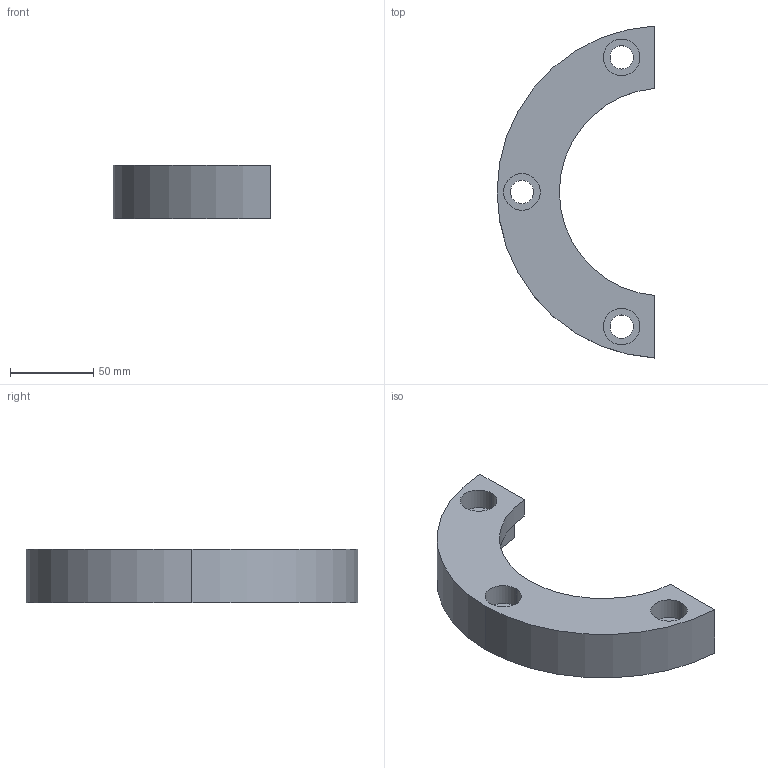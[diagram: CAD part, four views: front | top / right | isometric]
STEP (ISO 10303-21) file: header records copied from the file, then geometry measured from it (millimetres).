
FILE_DESCRIPTION (( 'STEP AP214' ), '1' );
FILE_NAME ('BR101-08-125.STEP', '2020-10-13T11:09:21', ( 'August' ), ( '' ), 'SwSTEP 2.0', 'SolidWorks 2018', '' );
FILE_SCHEMA (( 'AUTOMOTIVE_DESIGN' ));
Length unit declared in the file: millimetre
Products named in the file (1): BR101-08-125
Bounding box: 95 x 199.75 x 32 mm (x, y, z)
Volume: 238872.6 mm3; surface area: 40954.8 mm2
Topology: 1 solids, 1 shells, 26 faces, 63 edges, 42 vertices
Faces by surface type: cylinder 18, plane 8
Entity records: 829 total; most frequent: DIRECTION 153, CARTESIAN_POINT 132, ORIENTED_EDGE 126, AXIS2_PLACEMENT_3D 63, EDGE_CURVE 63, VERTEX_POINT 42, CIRCLE 36, EDGE_LOOP 35
